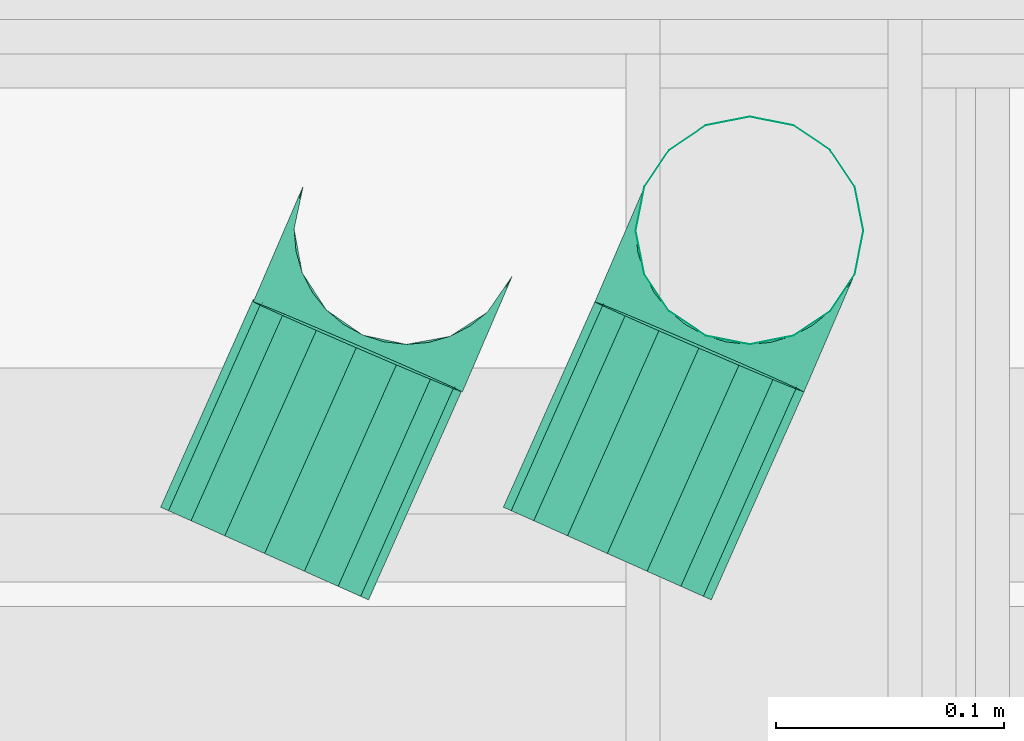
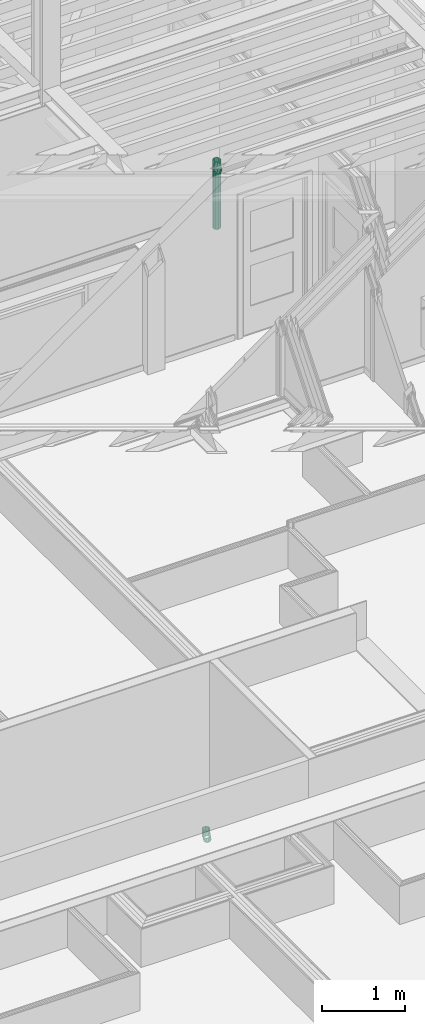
# One storey, part 174 of 183: 3 flow segments, 2 flow fittings.
"""IFC2X3 building model written with IfcOpenShell, lengths in metres."""

from ifc_helpers import new_model, entity, si_unit, converted_unit, derived_unit, money_unit, direction, frame, origin_with_axes, place, context, subcontext, project, spatial, open_shell, faceted_brep, surface_model, material, type_object, element, save


model = new_model("IFC2X3")

# Units and contexts
model_context = context("Model", 3, precision=1e-05, world=origin_with_axes(), true_north=direction((0.0, 1.0)))
body_context = subcontext(model_context, "Body", "Model", "MODEL_VIEW", scale=1.0)
ifc_project = project(units=[si_unit("LENGTHUNIT", "METRE"), si_unit("AREAUNIT", "SQUARE_METRE"), si_unit("VOLUMEUNIT", "CUBIC_METRE"), si_unit("ABSORBEDDOSEUNIT", "GRAY"), si_unit("AMOUNTOFSUBSTANCEUNIT", "MOLE"), si_unit("DOSEEQUIVALENTUNIT", "SIEVERT"), si_unit("ELECTRICCAPACITANCEUNIT", "FARAD"), si_unit("ELECTRICCHARGEUNIT", "COULOMB"), si_unit("ELECTRICCONDUCTANCEUNIT", "SIEMENS"), si_unit("ELECTRICCURRENTUNIT", "AMPERE"), si_unit("ELECTRICRESISTANCEUNIT", "OHM"), si_unit("ELECTRICVOLTAGEUNIT", "VOLT"), si_unit("ENERGYUNIT", "JOULE"), si_unit("FORCEUNIT", "NEWTON"), si_unit("FREQUENCYUNIT", "HERTZ"), si_unit("ILLUMINANCEUNIT", "LUX"), si_unit("INDUCTANCEUNIT", "HENRY"), si_unit("LUMINOUSFLUXUNIT", "LUMEN"), si_unit("LUMINOUSINTENSITYUNIT", "CANDELA"), si_unit("MAGNETICFLUXDENSITYUNIT", "TESLA"), si_unit("MAGNETICFLUXUNIT", "WEBER"), si_unit("MASSUNIT", "GRAM"), converted_unit("PLANEANGLEUNIT", "degree", entity("IfcReal", 0.0174532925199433), si_unit("PLANEANGLEUNIT", "RADIAN"), dimensions=[0, 0, 0, 0, 0, 0, 0]), si_unit("POWERUNIT", "WATT"), si_unit("PRESSUREUNIT", "PASCAL"), si_unit("RADIOACTIVITYUNIT", "BECQUEREL"), si_unit("SOLIDANGLEUNIT", "STERADIAN"), si_unit("THERMODYNAMICTEMPERATUREUNIT", "KELVIN"), si_unit("TIMEUNIT", "SECOND"), derived_unit("ACCELERATIONUNIT", [(si_unit("LENGTHUNIT", "METRE"), 1), (si_unit("TIMEUNIT", "SECOND"), -2)]), derived_unit("ANGULARVELOCITYUNIT", [(converted_unit("PLANEANGLEUNIT", "degree", entity("IfcReal", 0.0174532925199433), si_unit("PLANEANGLEUNIT", "RADIAN"), dimensions=[0, 0, 0, 0, 0, 0, 0]), 1), (si_unit("TIMEUNIT", "SECOND"), -1)]), derived_unit("CURVATUREUNIT", [(converted_unit("PLANEANGLEUNIT", "degree", entity("IfcReal", 0.0174532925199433), si_unit("PLANEANGLEUNIT", "RADIAN"), dimensions=[0, 0, 0, 0, 0, 0, 0]), 1), (si_unit("LENGTHUNIT", "METRE"), -1)]), derived_unit("DYNAMICVISCOSITYUNIT", [(si_unit("PRESSUREUNIT", "PASCAL"), 1), (si_unit("TIMEUNIT", "SECOND"), 1)]), derived_unit("HEATFLUXDENSITYUNIT", [(si_unit("POWERUNIT", "WATT"), 1), (si_unit("LENGTHUNIT", "METRE"), -2)]), derived_unit("HEATINGVALUEUNIT", [(si_unit("ENERGYUNIT", "JOULE"), 1), (si_unit("MASSUNIT", "GRAM"), -1)]), derived_unit("INTEGERCOUNTRATEUNIT", [(si_unit("TIMEUNIT", "SECOND"), -1)]), derived_unit("IONCONCENTRATIONUNIT", [(si_unit("MASSUNIT", "GRAM"), 1), (si_unit("VOLUMEUNIT", "CUBIC_METRE"), -1)]), derived_unit("ISOTHERMALMOISTURECAPACITYUNIT", [(si_unit("VOLUMEUNIT", "CUBIC_METRE"), 1), (si_unit("MASSUNIT", "GRAM"), -1)]), derived_unit("KINEMATICVISCOSITYUNIT", [(si_unit("AREAUNIT", "SQUARE_METRE"), 1), (si_unit("TIMEUNIT", "SECOND"), -1)]), derived_unit("LINEARFORCEUNIT", [(si_unit("FORCEUNIT", "NEWTON"), 1), (si_unit("LENGTHUNIT", "METRE"), -1)]), derived_unit("LINEARMOMENTUNIT", [(si_unit("FORCEUNIT", "NEWTON"), 1), (si_unit("LENGTHUNIT", "METRE"), -1)]), derived_unit("LINEARSTIFFNESSUNIT", [(si_unit("FORCEUNIT", "NEWTON"), 1), (si_unit("LENGTHUNIT", "METRE"), -1)]), derived_unit("LINEARVELOCITYUNIT", [(si_unit("LENGTHUNIT", "METRE"), 1), (si_unit("TIMEUNIT", "SECOND"), -1)]), derived_unit("LUMINOUSINTENSITYDISTRIBUTIONUNIT", [(si_unit("LUMINOUSINTENSITYUNIT", "CANDELA"), 1), (si_unit("LUMINOUSFLUXUNIT", "LUMEN"), -1)]), derived_unit("MASSDENSITYUNIT", [(si_unit("MASSUNIT", "GRAM"), 1), (si_unit("VOLUMEUNIT", "CUBIC_METRE"), -1)]), derived_unit("MASSFLOWRATEUNIT", [(si_unit("MASSUNIT", "GRAM"), 1), (si_unit("TIMEUNIT", "SECOND"), -1)]), derived_unit("MASSPERLENGTHUNIT", [(si_unit("MASSUNIT", "GRAM"), 1), (si_unit("LENGTHUNIT", "METRE"), -1)]), derived_unit("MODULUSOFELASTICITYUNIT", [(si_unit("FORCEUNIT", "NEWTON"), 1), (si_unit("AREAUNIT", "SQUARE_METRE"), -1)]), derived_unit("MODULUSOFLINEARSUBGRADEREACTIONUNIT", [(si_unit("FORCEUNIT", "NEWTON"), 1), (si_unit("LENGTHUNIT", "METRE"), -2)]), derived_unit("MODULUSOFROTATIONALSUBGRADEREACTIONUNIT", [(si_unit("FORCEUNIT", "NEWTON"), 1), (si_unit("LENGTHUNIT", "METRE"), 1)]), derived_unit("MODULUSOFSUBGRADEREACTIONUNIT", [(si_unit("FORCEUNIT", "NEWTON"), 1), (si_unit("VOLUMEUNIT", "CUBIC_METRE"), -1)]), derived_unit("MOISTUREDIFFUSIVITYUNIT", [(si_unit("VOLUMEUNIT", "CUBIC_METRE"), 1), (si_unit("TIMEUNIT", "SECOND"), -1)]), derived_unit("MOLECULARWEIGHTUNIT", [(si_unit("MASSUNIT", "GRAM"), 1), (si_unit("AMOUNTOFSUBSTANCEUNIT", "MOLE"), -1)]), derived_unit("PLANARFORCEUNIT", [(si_unit("FORCEUNIT", "NEWTON"), 1), (si_unit("LENGTHUNIT", "METRE"), -2)]), derived_unit("ROTATIONALFREQUENCYUNIT", [(si_unit("TIMEUNIT", "SECOND"), -1)]), derived_unit("ROTATIONALMASSUNIT", [(si_unit("MASSUNIT", "GRAM"), 1), (si_unit("LENGTHUNIT", "METRE"), 2)]), derived_unit("ROTATIONALSTIFFNESSUNIT", [(si_unit("FORCEUNIT", "NEWTON"), 1), (si_unit("LENGTHUNIT", "METRE"), 1), (converted_unit("PLANEANGLEUNIT", "degree", entity("IfcReal", 0.0174532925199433), si_unit("PLANEANGLEUNIT", "RADIAN"), dimensions=[0, 0, 0, 0, 0, 0, 0]), -1)]), derived_unit("SECTIONAREAINTEGRALUNIT", [(si_unit("LENGTHUNIT", "METRE"), 5)]), derived_unit("SECTIONMODULUSUNIT", [(si_unit("LENGTHUNIT", "METRE"), 3)]), derived_unit("SHEARMODULUSUNIT", [(si_unit("FORCEUNIT", "NEWTON"), 1), (si_unit("AREAUNIT", "SQUARE_METRE"), -1)]), derived_unit("SOUNDPOWERUNIT", [(si_unit("ENERGYUNIT", "JOULE"), 1), (si_unit("TIMEUNIT", "SECOND"), -1)]), derived_unit("SPECIFICHEATCAPACITYUNIT", [(si_unit("FORCEUNIT", "NEWTON"), 1), (si_unit("MASSUNIT", "GRAM"), -1), (si_unit("THERMODYNAMICTEMPERATUREUNIT", "KELVIN"), -1)]), derived_unit("TEMPERATUREGRADIENTUNIT", [(si_unit("THERMODYNAMICTEMPERATUREUNIT", "KELVIN"), 1), (si_unit("LENGTHUNIT", "METRE"), -1)]), derived_unit("THERMALADMITTANCEUNIT", [(si_unit("POWERUNIT", "WATT"), 1), (si_unit("AREAUNIT", "SQUARE_METRE"), -1), (si_unit("THERMODYNAMICTEMPERATUREUNIT", "KELVIN"), -1)]), derived_unit("THERMALCONDUCTANCEUNIT", [(si_unit("POWERUNIT", "WATT"), 1), (si_unit("LENGTHUNIT", "METRE"), -1), (si_unit("THERMODYNAMICTEMPERATUREUNIT", "KELVIN"), -1)]), derived_unit("THERMALEXPANSIONCOEFFICIENTUNIT", [(si_unit("THERMODYNAMICTEMPERATUREUNIT", "KELVIN"), -1)]), derived_unit("THERMALRESISTANCEUNIT", [(si_unit("AREAUNIT", "SQUARE_METRE"), 1), (si_unit("POWERUNIT", "WATT"), -1)]), derived_unit("THERMALTRANSMITTANCEUNIT", [(si_unit("POWERUNIT", "WATT"), 1), (si_unit("AREAUNIT", "SQUARE_METRE"), -1), (si_unit("THERMODYNAMICTEMPERATUREUNIT", "KELVIN"), -1)]), derived_unit("TORQUEUNIT", [(si_unit("FORCEUNIT", "NEWTON"), 1), (si_unit("LENGTHUNIT", "METRE"), 1)]), derived_unit("VAPORPERMEABILITYUNIT", [(si_unit("MASSUNIT", "GRAM"), 1), (si_unit("TIMEUNIT", "SECOND"), -1)]), derived_unit("VOLUMETRICFLOWRATEUNIT", [(si_unit("VOLUMEUNIT", "CUBIC_METRE"), 1), (si_unit("TIMEUNIT", "SECOND"), -1)]), derived_unit("WARPINGCONSTANTUNIT", [(si_unit("LENGTHUNIT", "METRE"), 6)]), derived_unit("WARPINGMOMENTUNIT", [(si_unit("FORCEUNIT", "NEWTON"), 1), (si_unit("LENGTHUNIT", "METRE"), 2)]), money_unit("GBP")], contexts=[model_context])

# Site, building, storey, space
site_placement = place(None, origin_with_axes())
site = spatial("IfcSite", under=ifc_project, at=site_placement, Name="Site", CompositionType="ELEMENT")
building_placement = place(site_placement, origin_with_axes())
building = spatial("IfcBuilding", under=site, at=building_placement, Name="Building01", CompositionType="ELEMENT")
storey_placement = place(building_placement, frame((0.0, 0.0, 5.15), z_axis=(0.0, 0.0, 1.0), x_axis=(1.0, 0.0, 0.0)))
storey = spatial("IfcBuildingStorey", under=building, at=storey_placement, Name="1F", CompositionType="ELEMENT", Elevation=5.15)
space_1_placement = place(storey_placement, frame((15.83844, 8.649812, 9.81), z_axis=(0.0, 0.0, 1.0), x_axis=(-1.0, 0.0, 0.0)))
space_1 = spatial("IfcSpace", under=storey, at=space_1_placement, Name="landing", CompositionType="ELEMENT", InteriorOrExteriorSpace="NOTDEFINED")

# Flow segment
ifc_material_1 = material(Name="M_BSUK_Ventilation")
duct_segment_type = type_object("IfcDuctSegmentType", Name="M-RoundDuct", PredefinedType="RIGIDSEGMENT")
placement = place(building_placement, origin_with_axes())
flow_segment_1_placement = place(placement, frame((15.691796, 8.430558, 15.779648), z_axis=(0.0, 0.0, -1.0), x_axis=(0.40708484, 0.91339035, 0.0)))
element("IfcFlowSegment", 1, at=flow_segment_1_placement, inside=space_1, type_object=duct_segment_type, material=ifc_material_1, Name="M-RoundDuct", ObjectType="M-RoundDuct", context=body_context, shape_type="Brep", body=[
    faceted_brep([(0.1, 0.0, -0.05), (0.0, 0.0, -0.05), (0.0, 0.019134, -0.046194), (0.1, 0.019134, -0.046194), (0.0, 0.035355, -0.035355), (0.1, 0.035355, -0.035355), (0.0, 0.046194, -0.019134), (0.1, 0.046194, -0.019134), (0.0, 0.05, 0.0), (0.1, 0.05, 0.0), (0.0, 0.046194, 0.019134), (0.1, 0.046194, 0.019134), (0.0, 0.035355, 0.035355), (0.1, 0.035355, 0.035355), (0.0, 0.019134, 0.046194), (0.1, 0.019134, 0.046194), (0.0, 0.0, 0.05), (0.1, 0.0, 0.05), (0.0, -0.019134, 0.046194), (0.1, -0.019134, 0.046194), (0.0, -0.035355, 0.035355), (0.1, -0.035355, 0.035355), (0.0, -0.046194, 0.019134), (0.1, -0.046194, 0.019134), (0.0, -0.05, 0.0), (0.1, -0.05, 0.0), (0.0, -0.046194, -0.019134), (0.1, -0.046194, -0.019134), (0.0, -0.035355, -0.035355), (0.1, -0.035355, -0.035355), (0.0, -0.019134, -0.046194), (0.1, -0.019134, -0.046194)], [[[0, 1, 2, 3]], [[3, 2, 4, 5]], [[5, 4, 6, 7]], [[7, 6, 8, 9]], [[9, 8, 10, 11]], [[11, 10, 12, 13]], [[13, 12, 14, 15]], [[15, 14, 16, 17]], [[17, 16, 18, 19]], [[19, 18, 20, 21]], [[21, 20, 22, 23]], [[23, 22, 24, 25]], [[25, 24, 26, 27]], [[27, 26, 28, 29]], [[29, 28, 30, 31]], [[31, 30, 1, 0]]]),
])

# Space
space_2_placement = place(storey_placement, frame((14.609584, 7.454282, 0.017932), z_axis=(0.0, 0.0, 1.0), x_axis=(-1.0, 0.0, 0.0)))
space_2 = spatial("IfcSpace", under=storey, at=space_2_placement, Name="landing", CompositionType="ELEMENT", InteriorOrExteriorSpace="NOTDEFINED")

# Flow segments
flow_segment_2_placement = place(placement, frame((15.541302, 8.430558, 5.949648), z_axis=(0.0, 0.0, -1.0), x_axis=(0.40708484, 0.91339035, 0.0)))
element("IfcFlowSegment", 2, at=flow_segment_2_placement, inside=space_2, type_object=duct_segment_type, material=ifc_material_1, Name="M-RoundDuct", ObjectType="M-RoundDuct", context=body_context, shape_type="Brep", body=[
    faceted_brep([(0.1, 0.0, -0.05), (0.0, 0.0, -0.05), (0.0, 0.019134, -0.046194), (0.1, 0.019134, -0.046194), (0.0, 0.035355, -0.035355), (0.1, 0.035355, -0.035355), (0.0, 0.046194, -0.019134), (0.1, 0.046194, -0.019134), (0.0, 0.05, 0.0), (0.1, 0.05, 0.0), (0.0, 0.046194, 0.019134), (0.1, 0.046194, 0.019134), (0.0, 0.035355, 0.035355), (0.1, 0.035355, 0.035355), (0.0, 0.019134, 0.046194), (0.1, 0.019134, 0.046194), (0.0, 0.0, 0.05), (0.1, 0.0, 0.05), (0.0, -0.019134, 0.046194), (0.1, -0.019134, 0.046194), (0.0, -0.035355, 0.035355), (0.1, -0.035355, 0.035355), (0.0, -0.046194, 0.019134), (0.1, -0.046194, 0.019134), (0.0, -0.05, 0.0), (0.1, -0.05, 0.0), (0.0, -0.046194, -0.019134), (0.1, -0.046194, -0.019134), (0.0, -0.035355, -0.035355), (0.1, -0.035355, -0.035355), (0.0, -0.019134, -0.046194), (0.1, -0.019134, -0.046194)], [[[0, 1, 2, 3]], [[3, 2, 4, 5]], [[5, 4, 6, 7]], [[7, 6, 8, 9]], [[9, 8, 10, 11]], [[11, 10, 12, 13]], [[13, 12, 14, 15]], [[15, 14, 16, 17]], [[17, 16, 18, 19]], [[19, 18, 20, 21]], [[21, 20, 22, 23]], [[23, 22, 24, 25]], [[25, 24, 26, 27]], [[27, 26, 28, 29]], [[29, 28, 30, 31]], [[31, 30, 1, 0]]]),
])
ifc_material_2 = material(Name="M_BSUK_ColdWater")
pipe_segment_type = type_object("IfcPipeSegmentType", Name="M-BmpStraightpipe-DefaultPipe", PredefinedType="RIGIDSEGMENT")
flow_segment_3_placement = place(placement, frame((15.754265, 8.57241, 15.724919), z_axis=(1.0, 0.0, 0.0), x_axis=(0.0, 0.0, -1.0)))
element("IfcFlowSegment", 3, at=flow_segment_3_placement, inside=space_1, type_object=pipe_segment_type, material=ifc_material_2, Name="M-BmpStraightpipe-DefaultPipe", ObjectType="M-BmpStraightpipe-DefaultPipe", context=body_context, shape_type="Brep", body=[
    faceted_brep([(0.893583, 0.0, -0.05), (0.0, 0.0, -0.05), (0.0, 0.019134, -0.046194), (0.893583, 0.019134, -0.046194), (0.0, 0.035355, -0.035355), (0.893583, 0.035355, -0.035355), (0.0, 0.046194, -0.019134), (0.893583, 0.046194, -0.019134), (0.0, 0.05, 0.0), (0.893583, 0.05, 0.0), (0.0, 0.046194, 0.019134), (0.893583, 0.046194, 0.019134), (0.0, 0.035355, 0.035355), (0.893583, 0.035355, 0.035355), (0.0, 0.019134, 0.046194), (0.893583, 0.019134, 0.046194), (0.0, 0.0, 0.05), (0.893583, 0.0, 0.05), (0.0, -0.019134, 0.046194), (0.893583, -0.019134, 0.046194), (0.0, -0.035355, 0.035355), (0.893583, -0.035355, 0.035355), (0.0, -0.046194, 0.019134), (0.893583, -0.046194, 0.019134), (0.0, -0.05, 0.0), (0.893583, -0.05, 0.0), (0.0, -0.046194, -0.019134), (0.893583, -0.046194, -0.019134), (0.0, -0.035355, -0.035355), (0.893583, -0.035355, -0.035355), (0.0, -0.019134, -0.046194), (0.893583, -0.019134, -0.046194)], [[[0, 1, 2, 3]], [[3, 2, 4, 5]], [[5, 4, 6, 7]], [[7, 6, 8, 9]], [[9, 8, 10, 11]], [[11, 10, 12, 13]], [[13, 12, 14, 15]], [[15, 14, 16, 17]], [[17, 16, 18, 19]], [[19, 18, 20, 21]], [[21, 20, 22, 23]], [[23, 22, 24, 25]], [[25, 24, 26, 27]], [[27, 26, 28, 29]], [[29, 28, 30, 31]], [[31, 30, 1, 0]]]),
])

# Flow fittings
pipe_fitting_type = type_object("IfcPipeFittingType", Name="M-BmpTee-DefaultTee", PredefinedType="JUNCTION")
flow_fitting_1_placement = place(placement, frame((15.604265, 8.57241, 5.899919), z_axis=(0.39563745, 0.91840678, 0.0), x_axis=(0.0, 0.0, 1.0)))
element("IfcFlowFitting", 4, at=flow_fitting_1_placement, inside=space_2, type_object=pipe_fitting_type, material=ifc_material_2, Name="M-BmpTee-DefaultTee", ObjectType="M-BmpTee-DefaultTee", context=body_context, shape_type="SurfaceModel", body=[
    surface_model("IfcShellBasedSurfaceModel", [(0.068757, 0.046194, -0.019134), (0.06921, 0.046194, -0.055386), (0.050077, 0.05, -0.055626), (0.085182, 0.035355, -0.035355), (0.08543, 0.035355, -0.055184), (0.096157, 0.019134, -0.046194), (0.096268, 0.019134, -0.055048), (0.099038, 0.009755, -0.049039), (0.100011, 0.0, -0.05), (0.100073, 0.0, -0.055001), (0.099038, -0.009755, -0.049039), (0.096157, -0.019134, -0.046194), (0.096268, -0.019134, -0.055048), (0.091478, -0.027779, -0.041573), (0.085182, -0.035355, -0.035355), (0.08543, -0.035355, -0.055184), (0.07751, -0.041573, -0.027779), (0.068757, -0.046194, -0.019134), (0.06921, -0.046194, -0.055386), (0.059259, -0.049039, -0.009755), (0.049382, -0.05, 0.0), (0.050077, -0.05, -0.055626), (0.030485, -0.046194, -0.019134), (0.030945, -0.046194, -0.055865), (0.014466, -0.035355, -0.035355), (0.014725, -0.035355, -0.056067), (0.003762, -0.019134, -0.046194), (0.003887, -0.019134, -0.056203), (0.000952, -0.009755, -0.049039), (3e-06, 0.0, -0.05), (8.1e-05, 0.0, -0.056251), (0.000952, 0.009755, -0.049039), (0.003762, 0.019134, -0.046194), (0.003887, 0.019134, -0.056203), (0.008325, 0.027779, -0.041573), (0.014466, 0.035355, -0.035355), (0.014725, 0.035355, -0.056067), (0.021948, 0.041573, -0.027779), (0.030485, 0.046194, -0.019134), (0.030945, 0.046194, -0.055865), (0.039749, 0.049039, -0.009755), (0.049382, 0.05, 0.0), (0.008325, -0.027779, -0.041573), (0.021948, -0.041573, -0.027779), (0.039749, -0.049039, -0.009755), (0.091478, 0.027779, -0.041573), (0.07751, 0.041573, -0.027779), (0.059259, 0.049039, -0.009755), (-0.005, -0.05, 0.0), (0.105012, -0.05, 0.0), (0.105012, -0.046194, 0.019134), (-0.005, -0.046194, 0.019134), (0.105012, -0.035355, 0.035355), (-0.005, -0.035355, 0.035355), (0.105012, -0.019134, 0.046194), (-0.005, -0.019134, 0.046194), (0.105012, 0.0, 0.05), (-0.005, 0.0, 0.05), (0.105012, 0.019134, 0.046194), (-0.005, 0.019134, 0.046194), (0.105012, 0.035355, 0.035355), (-0.005, 0.035355, 0.035355), (0.105012, 0.046194, 0.019134), (-0.005, 0.046194, 0.019134), (0.105012, 0.05, 0.0), (-0.005, 0.05, 0.0), (0.105012, -0.046194, -0.019134), (0.105012, -0.035355, -0.035355), (0.105012, -0.019134, -0.046194), (0.105012, 0.0, -0.05), (0.105012, 0.019134, -0.046194), (0.105012, 0.035355, -0.035355), (0.105012, 0.046194, -0.019134), (-0.005, 0.046194, -0.019134), (-0.005, 0.035355, -0.035355), (-0.005, 0.019134, -0.046194), (-0.005, 0.0, -0.05), (-0.005, -0.019134, -0.046194), (-0.005, -0.035355, -0.035355), (-0.005, -0.046194, -0.019134)], [open_shell([[[0, 1, 2]], [[3, 4, 1]], [[5, 6, 4]], [[7, 8, 9]], [[10, 11, 12]], [[13, 14, 15]], [[16, 17, 18]], [[19, 20, 21]], [[22, 23, 21]], [[24, 25, 23]], [[26, 27, 25]], [[28, 29, 30]], [[31, 32, 33]], [[34, 35, 36]], [[37, 38, 39]], [[40, 41, 2]], [[38, 40, 2]], [[2, 39, 38]], [[35, 37, 39]], [[39, 36, 35]], [[32, 34, 36]], [[36, 33, 32]], [[31, 33, 30]], [[30, 29, 31]], [[27, 26, 28]], [[30, 27, 28]], [[25, 24, 42]], [[25, 42, 26]], [[23, 22, 43]], [[23, 43, 24]], [[21, 20, 44]], [[21, 44, 22]], [[17, 19, 21]], [[21, 18, 17]], [[14, 16, 18]], [[18, 15, 14]], [[11, 13, 15]], [[15, 12, 11]], [[10, 12, 9]], [[9, 8, 10]], [[6, 5, 7]], [[9, 6, 7]], [[4, 3, 45]], [[4, 45, 5]], [[1, 0, 46]], [[1, 46, 3]], [[2, 41, 47]], [[2, 47, 0]], [[48, 20, 49, 50, 51]], [[51, 50, 52, 53]], [[53, 52, 54, 55]], [[55, 54, 56, 57]], [[57, 56, 58, 59]], [[59, 58, 60, 61]], [[61, 60, 62, 63]], [[63, 62, 64, 41, 65]], [[17, 66, 49]], [[14, 67, 66]], [[11, 68, 67]], [[10, 8, 69]], [[7, 5, 70]], [[45, 3, 71]], [[46, 0, 72]], [[47, 41, 64]], [[38, 73, 65]], [[35, 74, 73]], [[32, 75, 74]], [[31, 29, 76]], [[28, 26, 77]], [[42, 24, 78]], [[43, 22, 79]], [[44, 20, 48]], [[22, 44, 48]], [[48, 79, 22]], [[24, 43, 79]], [[79, 78, 24]], [[26, 42, 78]], [[78, 77, 26]], [[28, 77, 76]], [[76, 29, 28]], [[75, 32, 31]], [[76, 75, 31]], [[74, 35, 34]], [[74, 34, 32]], [[73, 38, 37]], [[73, 37, 35]], [[65, 41, 40]], [[65, 40, 38]], [[0, 47, 64]], [[64, 72, 0]], [[3, 46, 72]], [[72, 71, 3]], [[5, 45, 71]], [[71, 70, 5]], [[7, 70, 69]], [[69, 8, 7]], [[68, 11, 10]], [[69, 68, 10]], [[67, 14, 13]], [[67, 13, 11]], [[66, 17, 16]], [[66, 16, 14]], [[49, 20, 19]], [[49, 19, 17]]])]),
])
flow_fitting_2_placement = place(placement, frame((15.754265, 8.57241, 15.729919), z_axis=(0.39563745, 0.91840678, 0.0), x_axis=(0.0, 0.0, 1.0)))
element("IfcFlowFitting", 5, at=flow_fitting_2_placement, inside=space_1, type_object=pipe_fitting_type, material=ifc_material_2, Name="M-BmpTee-DefaultTee", ObjectType="M-BmpTee-DefaultTee", context=body_context, shape_type="SurfaceModel", body=[
    surface_model("IfcShellBasedSurfaceModel", [(0.068757, 0.046194, -0.019134), (0.06921, 0.046194, -0.055386), (0.050077, 0.05, -0.055626), (0.085182, 0.035355, -0.035355), (0.08543, 0.035355, -0.055184), (0.096157, 0.019134, -0.046194), (0.096268, 0.019134, -0.055048), (0.099038, 0.009755, -0.049039), (0.100011, 0.0, -0.05), (0.100073, 0.0, -0.055001), (0.099038, -0.009755, -0.049039), (0.096157, -0.019134, -0.046194), (0.096268, -0.019134, -0.055048), (0.091478, -0.027779, -0.041573), (0.085182, -0.035355, -0.035355), (0.08543, -0.035355, -0.055184), (0.07751, -0.041573, -0.027779), (0.068757, -0.046194, -0.019134), (0.06921, -0.046194, -0.055386), (0.059259, -0.049039, -0.009755), (0.049382, -0.05, 0.0), (0.050077, -0.05, -0.055626), (0.030485, -0.046194, -0.019134), (0.030945, -0.046194, -0.055865), (0.014466, -0.035355, -0.035355), (0.014725, -0.035355, -0.056067), (0.003762, -0.019134, -0.046194), (0.003887, -0.019134, -0.056203), (0.000952, -0.009755, -0.049039), (3e-06, 0.0, -0.05), (8.1e-05, 0.0, -0.056251), (0.000952, 0.009755, -0.049039), (0.003762, 0.019134, -0.046194), (0.003887, 0.019134, -0.056203), (0.008325, 0.027779, -0.041573), (0.014466, 0.035355, -0.035355), (0.014725, 0.035355, -0.056067), (0.021948, 0.041573, -0.027779), (0.030485, 0.046194, -0.019134), (0.030945, 0.046194, -0.055865), (0.039749, 0.049039, -0.009755), (0.049382, 0.05, 0.0), (0.008325, -0.027779, -0.041573), (0.021948, -0.041573, -0.027779), (0.039749, -0.049039, -0.009755), (0.091478, 0.027779, -0.041573), (0.07751, 0.041573, -0.027779), (0.059259, 0.049039, -0.009755), (-0.005, -0.05, 0.0), (0.105012, -0.05, 0.0), (0.105012, -0.046194, 0.019134), (-0.005, -0.046194, 0.019134), (0.105012, -0.035355, 0.035355), (-0.005, -0.035355, 0.035355), (0.105012, -0.019134, 0.046194), (-0.005, -0.019134, 0.046194), (0.105012, 0.0, 0.05), (-0.005, 0.0, 0.05), (0.105012, 0.019134, 0.046194), (-0.005, 0.019134, 0.046194), (0.105012, 0.035355, 0.035355), (-0.005, 0.035355, 0.035355), (0.105012, 0.046194, 0.019134), (-0.005, 0.046194, 0.019134), (0.105012, 0.05, 0.0), (-0.005, 0.05, 0.0), (0.105012, -0.046194, -0.019134), (0.105012, -0.035355, -0.035355), (0.105012, -0.019134, -0.046194), (0.105012, 0.0, -0.05), (0.105012, 0.019134, -0.046194), (0.105012, 0.035355, -0.035355), (0.105012, 0.046194, -0.019134), (-0.005, 0.046194, -0.019134), (-0.005, 0.035355, -0.035355), (-0.005, 0.019134, -0.046194), (-0.005, 0.0, -0.05), (-0.005, -0.019134, -0.046194), (-0.005, -0.035355, -0.035355), (-0.005, -0.046194, -0.019134)], [open_shell([[[0, 1, 2]], [[3, 4, 1]], [[5, 6, 4]], [[7, 8, 9]], [[10, 11, 12]], [[13, 14, 15]], [[16, 17, 18]], [[19, 20, 21]], [[22, 23, 21]], [[24, 25, 23]], [[26, 27, 25]], [[28, 29, 30]], [[31, 32, 33]], [[34, 35, 36]], [[37, 38, 39]], [[40, 41, 2]], [[38, 40, 2]], [[2, 39, 38]], [[35, 37, 39]], [[39, 36, 35]], [[32, 34, 36]], [[36, 33, 32]], [[31, 33, 30]], [[30, 29, 31]], [[27, 26, 28]], [[30, 27, 28]], [[25, 24, 42]], [[25, 42, 26]], [[23, 22, 43]], [[23, 43, 24]], [[21, 20, 44]], [[21, 44, 22]], [[17, 19, 21]], [[21, 18, 17]], [[14, 16, 18]], [[18, 15, 14]], [[11, 13, 15]], [[15, 12, 11]], [[10, 12, 9]], [[9, 8, 10]], [[6, 5, 7]], [[9, 6, 7]], [[4, 3, 45]], [[4, 45, 5]], [[1, 0, 46]], [[1, 46, 3]], [[2, 41, 47]], [[2, 47, 0]], [[48, 20, 49, 50, 51]], [[51, 50, 52, 53]], [[53, 52, 54, 55]], [[55, 54, 56, 57]], [[57, 56, 58, 59]], [[59, 58, 60, 61]], [[61, 60, 62, 63]], [[63, 62, 64, 41, 65]], [[17, 66, 49]], [[14, 67, 66]], [[11, 68, 67]], [[10, 8, 69]], [[7, 5, 70]], [[45, 3, 71]], [[46, 0, 72]], [[47, 41, 64]], [[38, 73, 65]], [[35, 74, 73]], [[32, 75, 74]], [[31, 29, 76]], [[28, 26, 77]], [[42, 24, 78]], [[43, 22, 79]], [[44, 20, 48]], [[22, 44, 48]], [[48, 79, 22]], [[24, 43, 79]], [[79, 78, 24]], [[26, 42, 78]], [[78, 77, 26]], [[28, 77, 76]], [[76, 29, 28]], [[75, 32, 31]], [[76, 75, 31]], [[74, 35, 34]], [[74, 34, 32]], [[73, 38, 37]], [[73, 37, 35]], [[65, 41, 40]], [[65, 40, 38]], [[0, 47, 64]], [[64, 72, 0]], [[3, 46, 72]], [[72, 71, 3]], [[5, 45, 71]], [[71, 70, 5]], [[7, 70, 69]], [[69, 8, 7]], [[68, 11, 10]], [[69, 68, 10]], [[67, 14, 13]], [[67, 13, 11]], [[66, 17, 16]], [[66, 16, 14]], [[49, 20, 19]], [[49, 19, 17]]])]),
])

save(model, "model.ifc")
